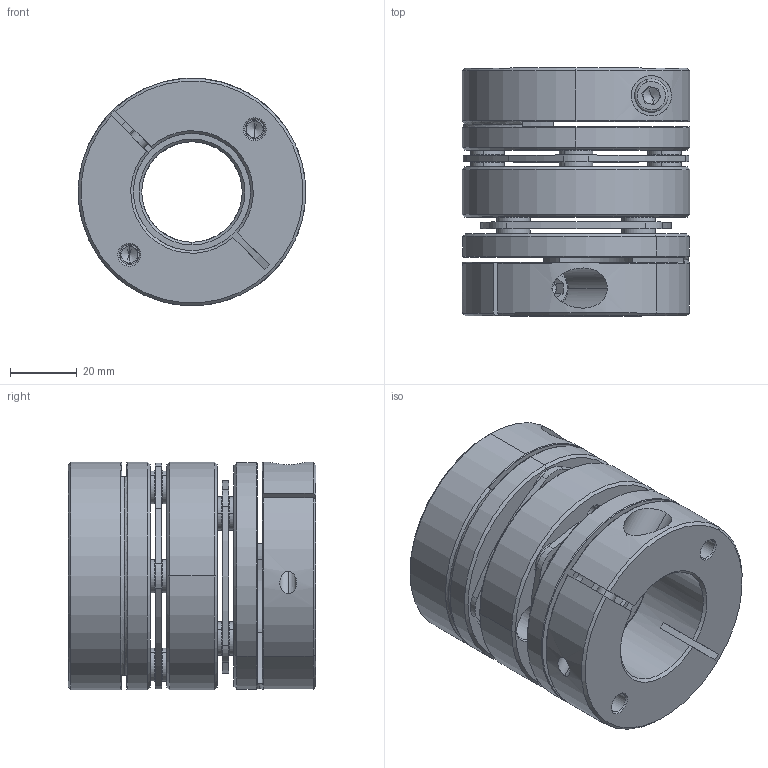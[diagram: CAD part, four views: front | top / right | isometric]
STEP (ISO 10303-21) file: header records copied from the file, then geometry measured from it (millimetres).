
FILE_DESCRIPTION (( 'STEP AP203' ), '1' );
FILE_NAME ('LD2-D68-30-35.STEP', '2021-10-26T08:47:16', ( '' ), ( '' ), 'SwSTEP 2.0', 'SolidWorks 2018', '' );
FILE_SCHEMA (( 'CONFIG_CONTROL_DESIGN' ));
Length unit declared in the file: millimetre
Products named in the file (2): 錨璃102^LD2-D68; LD2-D68-30-35
Assembly tree (1 placements, depth 2):
  LD2-D68-30-35
    錨璃102^LD2-D68
Bounding box: 68 x 74 x 68 mm (x, y, z)
Volume: 165979.7 mm3; surface area: 62294.2 mm2
Topology: 1 solids, 27 shells, 732 faces, 1696 edges, 1032 vertices
Faces by surface type: cylinder 256, cone 226, plane 220, torus 30
Entity records: 21398 total; most frequent: DIRECTION 3974, CARTESIAN_POINT 3912, ORIENTED_EDGE 3344, EDGE_CURVE 1672, AXIS2_PLACEMENT_3D 1614, VERTEX_POINT 1032, CIRCLE 878, EDGE_LOOP 868
